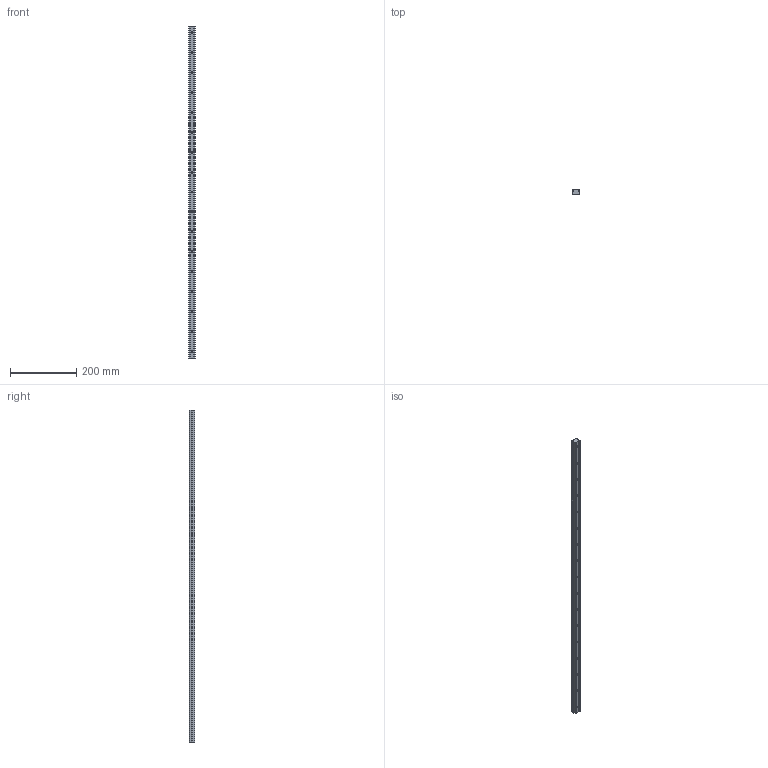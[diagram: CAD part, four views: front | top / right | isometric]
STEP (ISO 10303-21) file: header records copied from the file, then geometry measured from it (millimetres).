
FILE_DESCRIPTION (( 'STEP AP203' ), '1' );
FILE_NAME ('L1016.BL20-1000.step', '2019-06-12T11:48:01', ( '' ), ( '' ), 'SwSTEP 2.0', 'SolidWorks 2017', '' );
FILE_SCHEMA (( 'CONFIG_CONTROL_DESIGN' ));
Length unit declared in the file: millimetre
Products named in the file (1): L1016.BL20-1000
Bounding box: 20 x 16.3 x 1000 mm (x, y, z)
Volume: 277797.3 mm3; surface area: 80892.1 mm2
Topology: 1 solids, 1 shells, 111 faces, 276 edges, 184 vertices
Faces by surface type: cylinder 72, plane 39
Entity records: 3519 total; most frequent: DIRECTION 644, CARTESIAN_POINT 572, ORIENTED_EDGE 552, EDGE_CURVE 276, AXIS2_PLACEMENT_3D 256, VERTEX_POINT 184, EDGE_LOOP 162, CIRCLE 144
